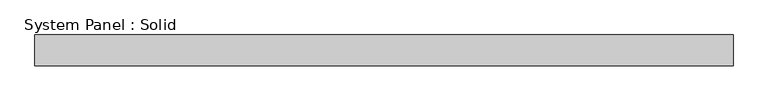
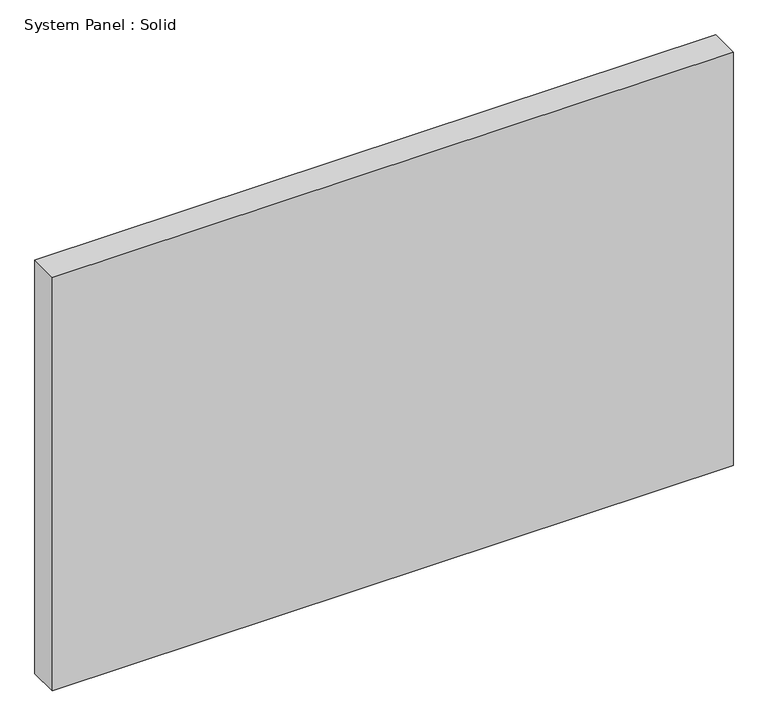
"""IFC4 building model written with IfcOpenShell, lengths in millimetres: plate geometry, System Panel : Solid."""

from ifc_helpers import new_model, si_unit, origin, origin_with_axes, place, context, project, spatial, polyline, outline, extrude, source, transform, mapped, element, save


def system_panel_solid_d08dec6a(model_context):
    return source(origin(), model_context, "Body", "SweptSolid", [
        extrude(outline(polyline([(716.474875, -19.05), (-716.474875, -19.05), (-716.474875, 44.45), (716.474875, 44.45), (716.474875, -19.05)])), origin_with_axes(), (0.0, 0.0, 1.0), 920.75),
    ])


if __name__ == "__main__":
    model = new_model("IFC4")
    model_context = context("Model", 3, world=origin())
    ifc_project = project(units=[si_unit("LENGTHUNIT", "METRE", prefix="MILLI")], contexts=[model_context])
    site = spatial("IfcSite", under=ifc_project)
    building = spatial("IfcBuilding", under=site)
    placement = place(None, origin())
    system_panel_solid_shape = system_panel_solid_d08dec6a(model_context)
    element("IfcPlate", 1, ObjectType="System Panel : Solid", at=placement, inside=building, context=model_context, shape_type="MappedRepresentation", body=[
        mapped(system_panel_solid_shape, transform((0.0, 0.0, 0.0), x_axis=(1.0, 0.0, 0.0), y_axis=(0.0, 1.0, 0.0), z_axis=(0.0, 0.0, 1.0))),
    ])
    save(model, "model.ifc")
